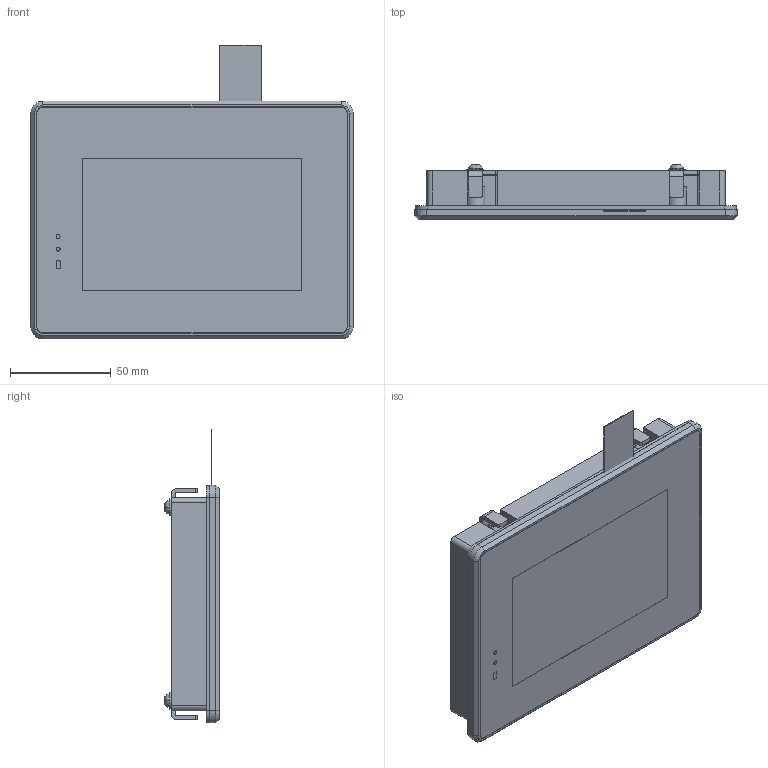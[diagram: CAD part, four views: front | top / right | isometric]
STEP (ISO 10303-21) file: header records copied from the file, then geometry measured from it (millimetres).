
FILE_DESCRIPTION((''),'2;1');
FILE_NAME('DMG80480T050-A5WTR_ASM','2021-07-14T',('Administrator'),(''),'PRO/ENGINEER BY PARAMETRIC TECHNOLOGY CORPORATION, 2014320','PRO/ENGINEER BY PARAMETRIC TECHNOLOGY CORPORATION, 2014320','');
FILE_SCHEMA(('CONFIG_CONTROL_DESIGN','SHAPE_APPEARANCE_LAYERS_GROUPS'));
Length unit declared in the file: millimetre
Products named in the file (18): TOP; PCB; TK050002; BUGLE-TK-181204_14; L320-BUGLE-1122_8; CTP; BOTTOM; LCD; 7_HMI-C1-180112_4; J_3; K_18; L_4; M_2; N_2; SKJG-1228_ASM_25_ASM; MFQ; PCB-0826-2; DMG80480T050-A5WTR_ASM
Assembly tree (21 placements, depth 3):
  DMG80480T050-A5WTR_ASM
    TOP
    PCB
    TK050002
    BUGLE-TK-181204_14  x2
    L320-BUGLE-1122_8
    CTP
    BOTTOM
    LCD
    7_HMI-C1-180112_4
    SKJG-1228_ASM_25_ASM  x4
      J_3
      K_18
      L_4
      M_2
      N_2
    MFQ
    PCB-0826-2
Bounding box: 160 x 27.2 x 145.87 mm (x, y, z)
Volume: 192632.7 mm3; surface area: 236067.1 mm2
Topology: 32 solids, 32 shells, 2125 faces, 5912 edges, 3920 vertices
Faces by surface type: plane 1410, cylinder 667, bspline 24, torus 16, cone 8
Entity records: 65854 total; most frequent: CARTESIAN_POINT 11616, ORIENTED_EDGE 9766, DIRECTION 9500, EDGE_CURVE 4883, VECTOR 3730, LINE 3730, VERTEX_POINT 3240, AXIS2_PLACEMENT_3D 2885
